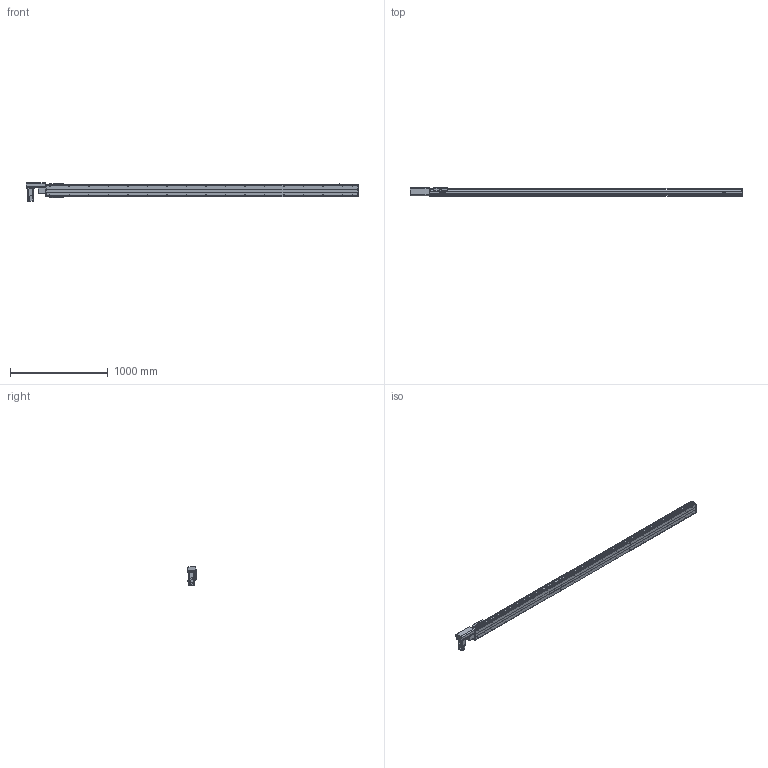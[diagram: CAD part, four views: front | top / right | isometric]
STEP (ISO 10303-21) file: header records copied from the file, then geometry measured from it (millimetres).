
FILE_DESCRIPTION(/* description */ ('STEP AP214'),/* implementation_level */ '2;1');
FILE_NAME(/* name */ 'PBS120-P40-S2900-R-T40-C1-N(0)',/* time_stamp */ '2022-06-06T02:11:23+02:00',/* author */ ('License CC BY-ND 4.0'),/* organization */ ('CADENAS'),/* preprocessor_version */ 'ST-DEVELOPER v18.102',/* originating_system */ 'PARTsolutions',/* authorisation */ ' ');
FILE_SCHEMA (('AUTOMOTIVE_DESIGN {1 0 10303 214 3 1 1}'));
Length unit declared in the file: millimetre
Products named in the file (7): PBS120-P40-S2900-R-T40-C1-N(0); PBS120_sensor; PBS120_plant; PBS120_sliser; T40-p1; PBS120T-R_motors; PBS120-S2900()_body
Assembly tree (8 placements, depth 2):
  PBS120-P40-S2900-R-T40-C1-N(0)
    PBS120_sensor  x3
    PBS120_plant
    PBS120_sliser
    T40-p1
    PBS120T-R_motors
    PBS120-S2900()_body
Bounding box: 3401 x 83 x 189.7 mm (x, y, z)
Volume: 12145598.4 mm3; surface area: 2528331 mm2
Topology: 8 solids, 8 shells, 882 faces, 2246 edges, 1441 vertices
Faces by surface type: plane 567, cylinder 247, cone 66, torus 2
Full cylindrical faces by diameter (mm): 2.459 x6, 3.242 x4, 4 x2, 4.134 x4, 4.5 x10, 4.917 x38, 5.5 x11, 6 x2, 6.6 x1, 7 x2, 8.5 x4, 9 x4, 12 x1, 14 x1, 30 x2, 40 x1, 50 x2
Entity records: 22674 total; most frequent: DIRECTION 3956, CARTESIAN_POINT 3839, ORIENTED_EDGE 3610, EDGE_CURVE 1805, AXIS2_PLACEMENT_3D 1364, VERTEX_POINT 1247, LINE 1228, VECTOR 1228
